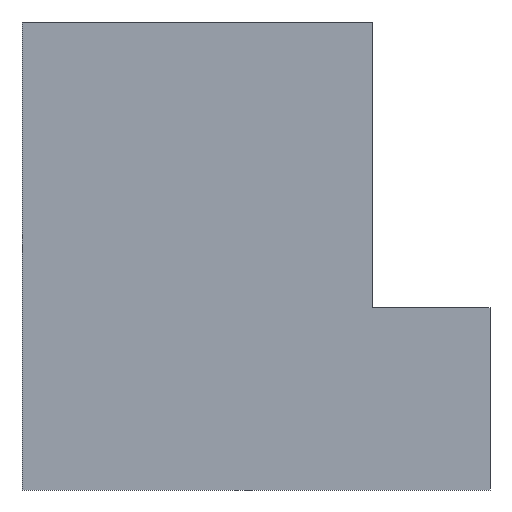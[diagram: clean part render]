
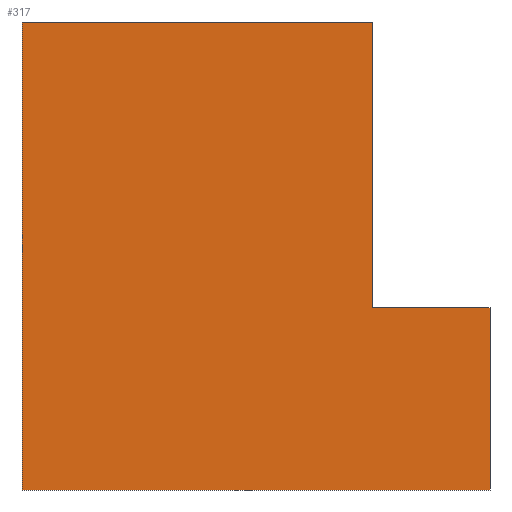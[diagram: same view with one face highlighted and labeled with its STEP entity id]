
A CAD part, left-side view. The second image highlights one B-rep face of the part: STEP entity #317.
In plain terms, the highlighted planar face has unit normal (-1, 0, 0).
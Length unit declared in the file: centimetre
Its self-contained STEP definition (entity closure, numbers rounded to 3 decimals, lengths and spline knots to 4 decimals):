
#10 = AXIS2_PLACEMENT_3D ( 'NONE', #299, #24, #83 ) ;
#17 = DIRECTION ( 'NONE',  ( 0., -1., 0. ) ) ;
#18 = VECTOR ( 'NONE', #42, 100. ) ;
#24 = DIRECTION ( 'NONE',  ( 1., 0., 0. ) ) ;
#31 = ORIENTED_EDGE ( 'NONE', *, *, #305, .F. ) ;
#42 = DIRECTION ( 'NONE',  ( 0., 0., -1. ) ) ;
#44 = CARTESIAN_POINT ( 'NONE',  ( 0., 1000., 1000. ) ) ;
#52 = CARTESIAN_POINT ( 'NONE',  ( 0., 0., 389.3705 ) ) ;
#55 = CARTESIAN_POINT ( 'NONE',  ( 0., 251.3277, 1000. ) ) ;
#79 = CARTESIAN_POINT ( 'NONE',  ( 0., 1000., 0. ) ) ;
#80 = EDGE_CURVE ( 'NONE', #295, #397, #226, .T. ) ;
#81 = VERTEX_POINT ( 'NONE', #106 ) ;
#83 = DIRECTION ( 'NONE',  ( 0., 0., -1. ) ) ;
#84 = VERTEX_POINT ( 'NONE', #352 ) ;
#88 = CARTESIAN_POINT ( 'NONE',  ( 0., 251.3277, 389.3705 ) ) ;
#101 = VECTOR ( 'NONE', #213, 100. ) ;
#106 = CARTESIAN_POINT ( 'NONE',  ( 0., 0., 389.3705 ) ) ;
#109 = ORIENTED_EDGE ( 'NONE', *, *, #143, .T. ) ;
#112 = VECTOR ( 'NONE', #381, 100. ) ;
#132 = EDGE_CURVE ( 'NONE', #81, #84, #228, .T. ) ;
#143 = EDGE_CURVE ( 'NONE', #168, #84, #356, .T. ) ;
#147 = LINE ( 'NONE', #52, #179 ) ;
#168 = VERTEX_POINT ( 'NONE', #79 ) ;
#169 = CARTESIAN_POINT ( 'NONE',  ( 0., 1000., 0. ) ) ;
#174 = ORIENTED_EDGE ( 'NONE', *, *, #132, .F. ) ;
#175 = ORIENTED_EDGE ( 'NONE', *, *, #384, .T. ) ;
#179 = VECTOR ( 'NONE', #17, 100. ) ;
#180 = VERTEX_POINT ( 'NONE', #44 ) ;
#206 = LINE ( 'NONE', #244, #290 ) ;
#212 = ORIENTED_EDGE ( 'NONE', *, *, #334, .F. ) ;
#213 = DIRECTION ( 'NONE',  ( 0., 0., -1. ) ) ;
#219 = CARTESIAN_POINT ( 'NONE',  ( 0., 251.3277, 389.3705 ) ) ;
#226 = LINE ( 'NONE', #219, #112 ) ;
#228 = LINE ( 'NONE', #294, #18 ) ;
#238 = FACE_OUTER_BOUND ( 'NONE', #263, .T. ) ;
#241 = LINE ( 'NONE', #364, #101 ) ;
#244 = CARTESIAN_POINT ( 'NONE',  ( 0., 1000., 1000. ) ) ;
#263 = EDGE_LOOP ( 'NONE', ( #174, #31, #268, #212, #175, #109 ) ) ;
#268 = ORIENTED_EDGE ( 'NONE', *, *, #80, .F. ) ;
#290 = VECTOR ( 'NONE', #331, 100. ) ;
#293 = DIRECTION ( 'NONE',  ( 0., -1., 0. ) ) ;
#294 = CARTESIAN_POINT ( 'NONE',  ( 0., 0., 1000. ) ) ;
#295 = VERTEX_POINT ( 'NONE', #55 ) ;
#299 = CARTESIAN_POINT ( 'NONE',  ( 0., 1000., 1000. ) ) ;
#305 = EDGE_CURVE ( 'NONE', #397, #81, #147, .T. ) ;
#317 = ADVANCED_FACE ( 'NONE', ( #238 ), #396, .F. ) ;
#331 = DIRECTION ( 'NONE',  ( 0., -1., 0. ) ) ;
#334 = EDGE_CURVE ( 'NONE', #180, #295, #206, .T. ) ;
#352 = CARTESIAN_POINT ( 'NONE',  ( 0., 0., 0. ) ) ;
#356 = LINE ( 'NONE', #169, #372 ) ;
#364 = CARTESIAN_POINT ( 'NONE',  ( 0., 1000., 1000. ) ) ;
#372 = VECTOR ( 'NONE', #293, 100. ) ;
#381 = DIRECTION ( 'NONE',  ( 0., 0., -1. ) ) ;
#384 = EDGE_CURVE ( 'NONE', #180, #168, #241, .T. ) ;
#396 = PLANE ( 'NONE',  #10 ) ;
#397 = VERTEX_POINT ( 'NONE', #88 ) ;
